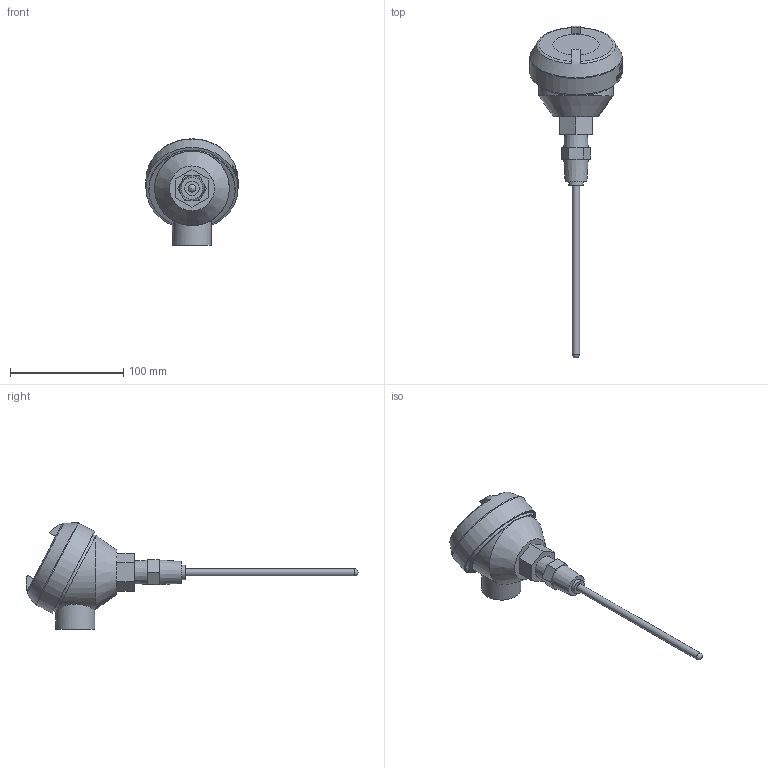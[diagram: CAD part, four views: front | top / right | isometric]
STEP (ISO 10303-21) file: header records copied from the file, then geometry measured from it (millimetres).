
FILE_DESCRIPTION(/* description */ (''),/* implementation_level */ '2;1');
FILE_NAME(/* name */ 'P:\3D Drawings\Cast Aluminum\Cast-Aluminum-Head-Spring-Loaded\Cast-Aluminum-Head-Spring-Loaded-STP\Cast-Aluminum-Head-Spring-Loaded-STP.stp',/* time_stamp */ '2015-11-11T12:16:10-08:00',/* author */ ('charles'),/* organization */ (''),/* preprocessor_version */ 'ST-DEVELOPER v15.2',/* originating_system */ 'Autodesk Inventor 2014',/* authorisation */ '');
FILE_SCHEMA (('AUTOMOTIVE_DESIGN { 1 0 10303 214 3 1 1 }'));
Length unit declared in the file: inch
Products named in the file (1): Cast-Aluminum-Head-Spring-Loaded
Bounding box: 81.35 x 293.06 x 94.02 mm (x, y, z)
Volume: 279447.2 mm3; surface area: 37472 mm2
Topology: 3 solids, 3 shells, 299 faces, 788 edges, 526 vertices
Faces by surface type: plane 164, bspline 87, cylinder 38, cone 5, torus 4, sphere 1
Full cylindrical faces by diameter (mm): 6.35 x2, 11.789 x1, 12.7 x2, 17.272 x1, 18.644 x2, 19.05 x1, 34.544 x1, 40.64 x1, 65.923 x1, 76.2 x1, 81.345 x1
Entity records: 32050 total; most frequent: CARTESIAN_POINT 25235, ORIENTED_EDGE 1514, DIRECTION 994, EDGE_CURVE 756, VERTEX_POINT 516, EDGE_LOOP 354, AXIS2_PLACEMENT_3D 335, LINE 324
